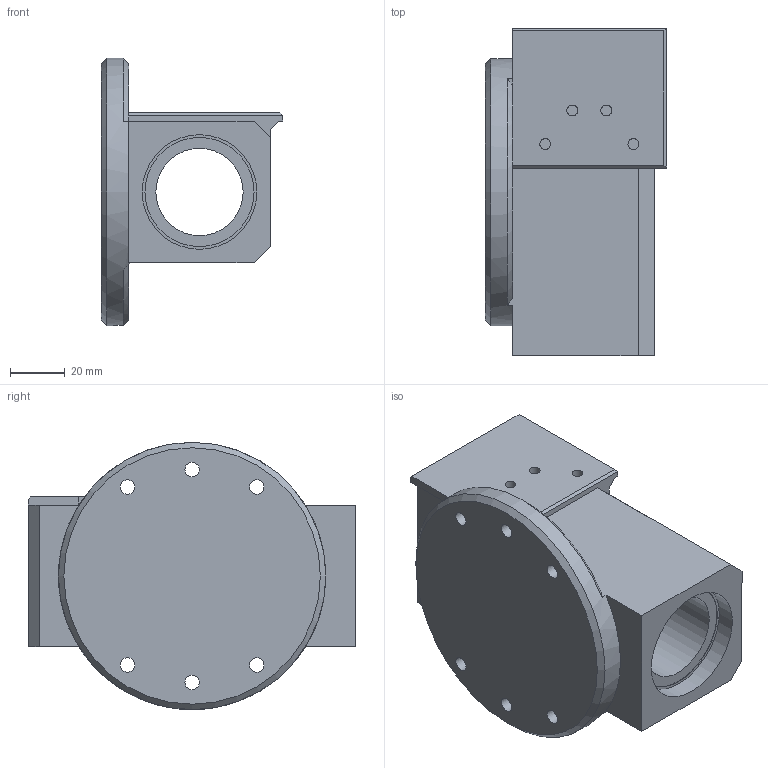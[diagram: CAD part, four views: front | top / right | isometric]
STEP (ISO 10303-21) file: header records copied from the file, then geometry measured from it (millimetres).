
FILE_DESCRIPTION(/* description */ (''),/* implementation_level */ '2;1');
FILE_NAME(/* name */ 'elbow arm mount.step',/* time_stamp */ '2026-06-03T23:48:27+01:00',/* author */ (''),/* organization */ (''),/* preprocessor_version */ 'ST-DEVELOPER v20.1',/* originating_system */ 'Autodesk Translation Framework v15.8.0.0',/* authorisation */ '');
FILE_SCHEMA (('AUTOMOTIVE_DESIGN { 1 0 10303 214 3 1 1 }'));
Length unit declared in the file: millimetre
Products named in the file (1): elbow arm mount
Bounding box: 66.5 x 120.09 x 98 mm (x, y, z)
Volume: 295072.1 mm3; surface area: 50678.4 mm2
Topology: 1 solids, 1 shells, 69 faces, 155 edges, 100 vertices
Faces by surface type: plane 44, cylinder 22, cone 3
Full cylindrical faces by diameter (mm): 4 x4, 5.3 x6, 12 x6, 32 x1, 40 x2, 42 x2, 98 x1
Entity records: 1984 total; most frequent: DIRECTION 349, CARTESIAN_POINT 333, ORIENTED_EDGE 310, EDGE_CURVE 155, AXIS2_PLACEMENT_3D 128, VERTEX_POINT 100, EDGE_LOOP 95, LINE 93
